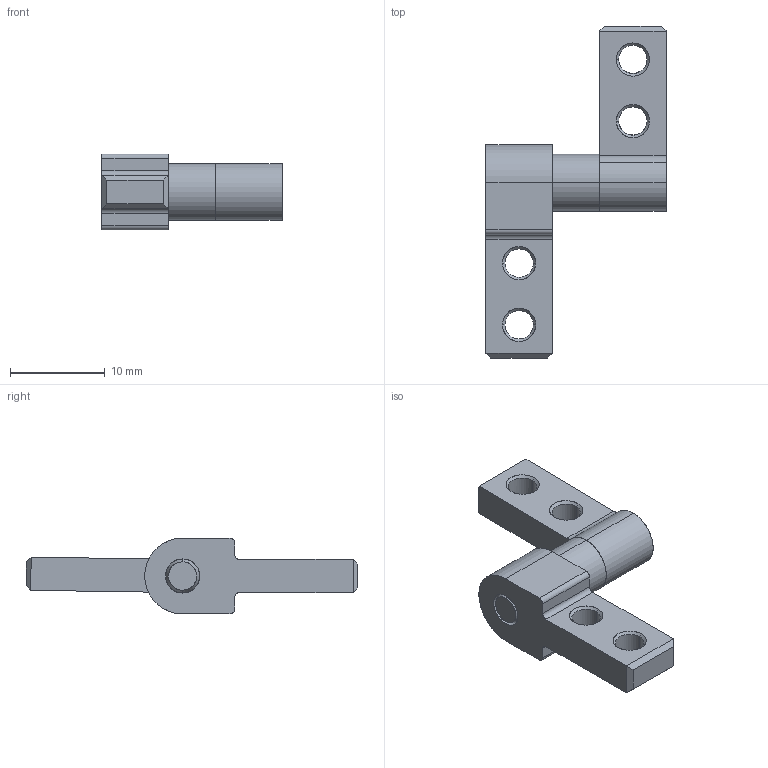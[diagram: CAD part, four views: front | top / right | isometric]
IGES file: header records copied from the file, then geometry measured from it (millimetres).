
Start section: SolidWorks IGES file using analytic representation for surfaces
Global section: file name: G:\RELEASED\FINALS\55-XXX Standard PHA\REELL PHA (55-XXX) Hinge Assembly Free Rotation.IGS; native system: SolidWorks 2015; preprocessor: SolidWorks 2015; author: hmanderson; date: 150818.082518; units: millimetre
Bounding box: 19 x 35.02 x 8 mm (x, y, z)
Surface area: 1515.6 mm2 (no closed solid volume)
Topology: 0 solids, 0 shells, 198 faces, 2037 edges, 2037 vertices
Faces by surface type: bspline 150, revolution 48
